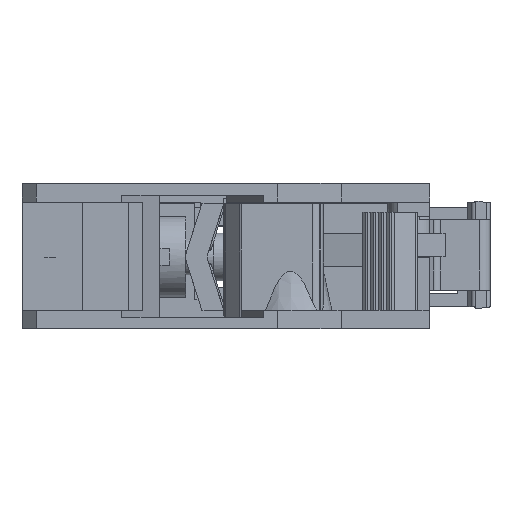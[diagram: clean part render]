
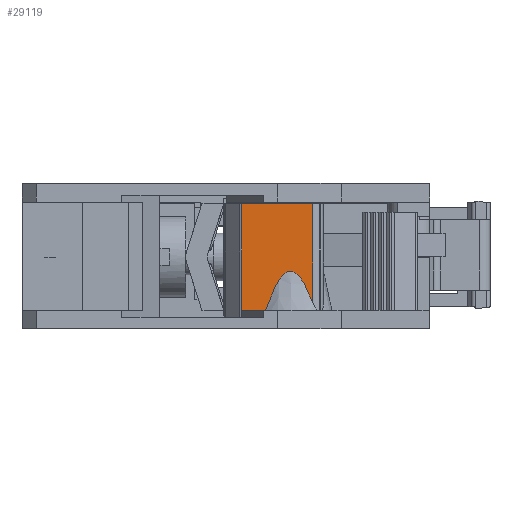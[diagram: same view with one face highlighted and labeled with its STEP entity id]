
A CAD part, left-side view. The second image highlights one B-rep face of the part: STEP entity #29119.
In plain terms, the highlighted planar face has unit normal (-1, 0, 0).
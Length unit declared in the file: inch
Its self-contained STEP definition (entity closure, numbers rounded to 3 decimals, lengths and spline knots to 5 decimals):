
#6047=DIRECTION('',(0.,-1.,0.));
#6048=VECTOR('',#6047,0.19897);
#6049=CARTESIAN_POINT('',(-0.73819,-0.23675,
0.35039));
#6050=LINE('',#6049,#6048);
#6086=DIRECTION('',(0.,0.,1.));
#6087=VECTOR('',#6086,0.29921);
#6088=CARTESIAN_POINT('',(-0.73819,-0.23675,
0.05118));
#6089=LINE('',#6088,#6087);
#6146=CARTESIAN_POINT('',(-0.73819,-0.43572,
0.07421));
#6147=CARTESIAN_POINT('',(-0.73819,-0.43399,
0.07868));
#6148=CARTESIAN_POINT('',(-0.73819,-0.43061,
0.08718));
#6149=CARTESIAN_POINT('',(-0.73819,-0.42573,
0.09867));
#6150=CARTESIAN_POINT('',(-0.73819,-0.42103,
0.10899));
#6151=CARTESIAN_POINT('',(-0.73819,-0.41649,
0.11823));
#6152=CARTESIAN_POINT('',(-0.73819,-0.41208,
0.12644));
#6153=CARTESIAN_POINT('',(-0.73819,-0.40779,
0.13368));
#6154=CARTESIAN_POINT('',(-0.73819,-0.4036,
0.14));
#6155=CARTESIAN_POINT('',(-0.73819,-0.39951,
0.14544));
#6156=CARTESIAN_POINT('',(-0.73819,-0.39552,
0.15003));
#6157=CARTESIAN_POINT('',(-0.73819,-0.39161,
0.1538));
#6158=CARTESIAN_POINT('',(-0.73819,-0.38782,
0.15675));
#6159=CARTESIAN_POINT('',(-0.73819,-0.38416,
0.15893));
#6160=CARTESIAN_POINT('',(-0.73819,-0.38066,
0.1604));
#6161=CARTESIAN_POINT('',(-0.73819,-0.37728,
0.16124));
#6162=CARTESIAN_POINT('',(-0.73819,-0.37509,
0.16142));
#6163=CARTESIAN_POINT('',(-0.73819,-0.37402,
0.16142));
#6165=CARTESIAN_POINT('',(-0.73819,-0.30381,
0.05118));
#6166=CARTESIAN_POINT('',(-0.73819,-0.30573,
0.05659));
#6167=CARTESIAN_POINT('',(-0.73819,-0.30948,
0.06691));
#6168=CARTESIAN_POINT('',(-0.73819,-0.31486,
0.08084));
#6169=CARTESIAN_POINT('',(-0.73819,-0.32001,
0.09339));
#6170=CARTESIAN_POINT('',(-0.73819,-0.32497,
0.10464));
#6171=CARTESIAN_POINT('',(-0.73819,-0.32975,
0.11467));
#6172=CARTESIAN_POINT('',(-0.73819,-0.33437,
0.12357));
#6173=CARTESIAN_POINT('',(-0.73819,-0.33885,
0.13141));
#6174=CARTESIAN_POINT('',(-0.73819,-0.34321,
0.13824));
#6175=CARTESIAN_POINT('',(-0.73819,-0.34746,
0.14412));
#6176=CARTESIAN_POINT('',(-0.73819,-0.35161,
0.14907));
#6177=CARTESIAN_POINT('',(-0.73819,-0.35567,
0.15314));
#6178=CARTESIAN_POINT('',(-0.73819,-0.3596,
0.15633));
#6179=CARTESIAN_POINT('',(-0.73819,-0.36342,
0.15871));
#6180=CARTESIAN_POINT('',(-0.73819,-0.36709,
0.16032));
#6181=CARTESIAN_POINT('',(-0.73819,-0.37063,
0.16123));
#6182=CARTESIAN_POINT('',(-0.73819,-0.3729,
0.16142));
#6183=CARTESIAN_POINT('',(-0.73819,-0.37402,
0.16142));
#6185=DIRECTION('',(0.,-1.,0.));
#6186=VECTOR('',#6185,0.06707);
#6187=CARTESIAN_POINT('',(-0.73819,-0.23675,
0.05118));
#6188=LINE('',#6187,#6186);
#6189=CARTESIAN_POINT('',(-0.73819,-0.43572,
0.07421));
#6196=DIRECTION('',(0.,0.,-1.));
#6197=VECTOR('',#6196,0.27618);
#6198=CARTESIAN_POINT('',(-0.73819,-0.43572,
0.35039));
#6199=LINE('',#6198,#6197);
#18148=CARTESIAN_POINT('',(-0.73819,-0.23675,
0.05118));
#18149=VERTEX_POINT('',#18148);
#18150=CARTESIAN_POINT('',(-0.73819,-0.23675,
0.35039));
#18151=VERTEX_POINT('',#18150);
#18378=CARTESIAN_POINT('',(-0.73819,-0.43572,
0.35039));
#18379=VERTEX_POINT('',#18378);
#18543=VERTEX_POINT('',#6165);
#18544=VERTEX_POINT('',#6183);
#18548=VERTEX_POINT('',#6189);
#29105=CARTESIAN_POINT('',(-0.73819,-0.44685,
0.05118));
#29106=DIRECTION('',(-1.,0.,0.));
#29107=DIRECTION('',(0.,0.,1.));
#29108=AXIS2_PLACEMENT_3D('',#29105,#29106,#29107);
#29109=PLANE('',#29108);
#29110=ORIENTED_EDGE('',*,*,#29093,.F.);
#29111=ORIENTED_EDGE('',*,*,#29083,.F.);
#29112=ORIENTED_EDGE('',*,*,#29024,.T.);
#29113=ORIENTED_EDGE('',*,*,#28969,.T.);
#29115=ORIENTED_EDGE('',*,*,#29114,.T.);
#29116=ORIENTED_EDGE('',*,*,#29095,.T.);
#29117=EDGE_LOOP('',(#29110,#29111,#29112,#29113,#29115,#29116));
#29118=FACE_OUTER_BOUND('',#29117,.F.);
#29119=ADVANCED_FACE('',(#29118),#29109,.T.);
#6164=B_SPLINE_CURVE_WITH_KNOTS('',3,(#6146,#6147,#6148,#6149,#6150,#6151,#6152,
#6153,#6154,#6155,#6156,#6157,#6158,#6159,#6160,#6161,#6162,#6163),
.UNSPECIFIED.,.F.,.F.,(4,1,1,1,1,1,1,1,1,1,1,1,1,1,1,4),(0.,0.06667,
0.13333,0.2,0.26667,0.33333,0.4,
0.46667,0.53333,0.6,0.66667,0.73333,
0.8,0.86667,0.93333,1.),.UNSPECIFIED.);
#6184=B_SPLINE_CURVE_WITH_KNOTS('',3,(#6165,#6166,#6167,#6168,#6169,#6170,#6171,
#6172,#6173,#6174,#6175,#6176,#6177,#6178,#6179,#6180,#6181,#6182,#6183),
.UNSPECIFIED.,.F.,.F.,(4,1,1,1,1,1,1,1,1,1,1,1,1,1,1,1,4),(0.,0.0625,0.125,
0.1875,0.25,0.3125,0.375,0.4375,0.5,0.5625,0.625,0.6875,
0.75,0.8125,0.875,0.9375,1.),.UNSPECIFIED.);
#28969=EDGE_CURVE('',#18151,#18379,#6050,.T.);
#29024=EDGE_CURVE('',#18149,#18151,#6089,.T.);
#29083=EDGE_CURVE('',#18149,#18543,#6188,.T.);
#29093=EDGE_CURVE('',#18543,#18544,#6184,.T.);
#29095=EDGE_CURVE('',#18548,#18544,#6164,.T.);
#29114=EDGE_CURVE('',#18379,#18548,#6199,.T.);
